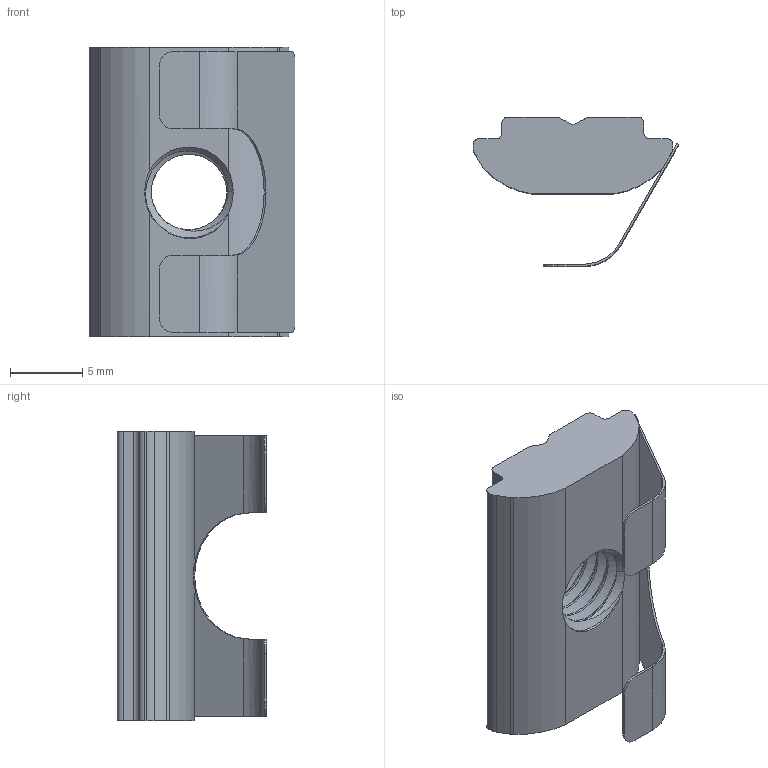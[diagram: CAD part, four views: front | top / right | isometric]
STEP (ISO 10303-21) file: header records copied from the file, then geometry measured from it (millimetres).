
FILE_DESCRIPTION (( 'STEP AP203' ), '1' );
FILE_NAME ('3308.010.003.STEP', '2023-05-24T06:31:02', ( '' ), ( '' ), 'SwSTEP 2.0', 'SolidWorks 2022', '' );
FILE_SCHEMA (( 'CONFIG_CONTROL_DESIGN' ));
Length unit declared in the file: millimetre
Products named in the file (3): 3308-M6; 3308.010.003; 3308粟え
Assembly tree (2 placements, depth 2):
  3308.010.003
    3308粟え
    3308-M6
Bounding box: 14.22 x 10.3 x 20 mm (x, y, z)
Volume: 1065.5 mm3; surface area: 1285 mm2
Topology: 2 solids, 2 shells, 78 faces, 227 edges, 151 vertices
Faces by surface type: cylinder 35, plane 31, cone 7, bspline 5
Entity records: 5534 total; most frequent: CARTESIAN_POINT 3276, ORIENTED_EDGE 454, DIRECTION 378, EDGE_CURVE 227, VERTEX_POINT 151, AXIS2_PLACEMENT_3D 134, VECTOR 110, LINE 110
